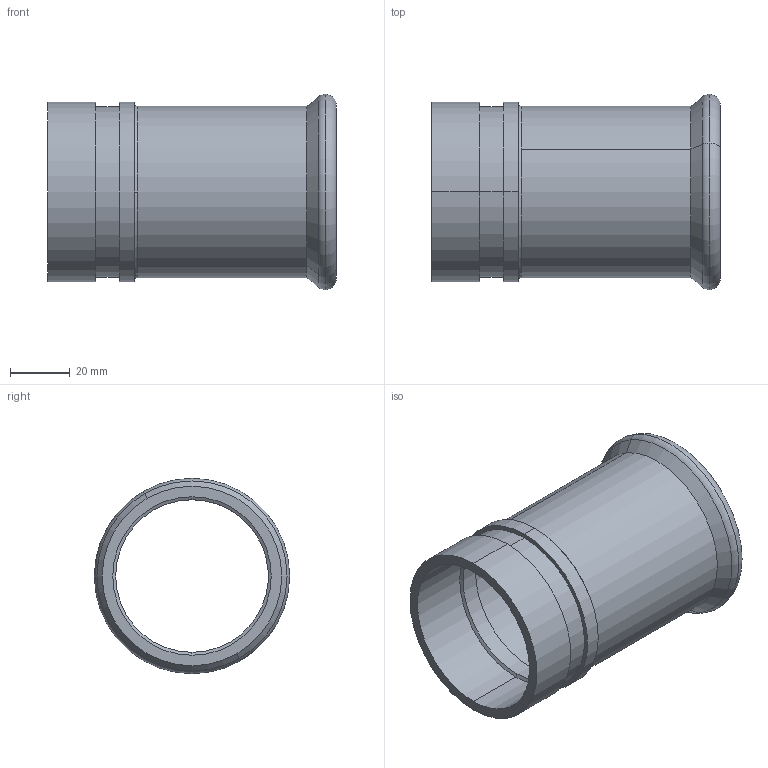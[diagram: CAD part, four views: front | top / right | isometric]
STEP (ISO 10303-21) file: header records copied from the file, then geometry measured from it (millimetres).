
FILE_DESCRIPTION(('CoCreate Modeling STEP Export'),'2;1');
FILE_NAME('C1442 60x54.stp','2014-11-12T16:42:38',(''),(''),'CoCreate Modeling STEP processor for AP214 (Solid Model)','CoCreate Modeling 17.00A 17-Jun-2010 (C) Parametric Technology GmbH','');
FILE_SCHEMA(('AUTOMOTIVE_DESIGN { 1 0 10303 214 1 1 1 1 }'));
Length unit declared in the file: millimetre
Products named in the file (2): CP1442_60x54
Assembly tree (1 placements, depth 2):
  CP1442_60x54
    CP1442_60x54
Bounding box: 96.5 x 65.3 x 65.3 mm (x, y, z)
Volume: 38780 mm3; surface area: 36905.2 mm2
Topology: 1 solids, 1 shells, 33 faces, 82 edges, 56 vertices
Faces by surface type: cylinder 16, plane 7, torus 6, cone 4
Entity records: 829 total; most frequent: ORIENTED_EDGE 164, CARTESIAN_POINT 123, DIRECTION 114, EDGE_CURVE 82, VERTEX_POINT 56, AXIS2_PLACEMENT_3D 47, EDGE_LOOP 40, FACE_OUTER_BOUND 33
